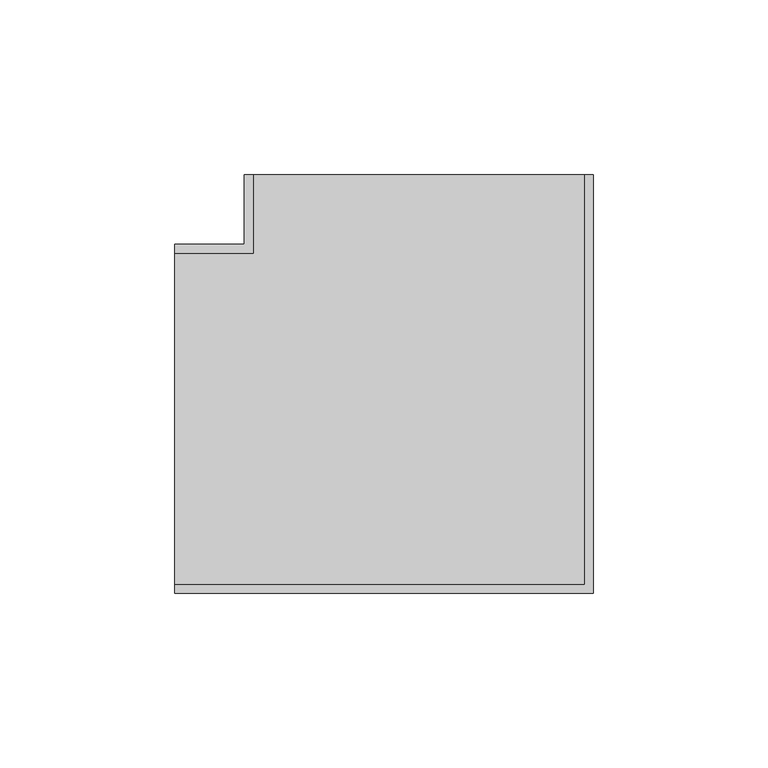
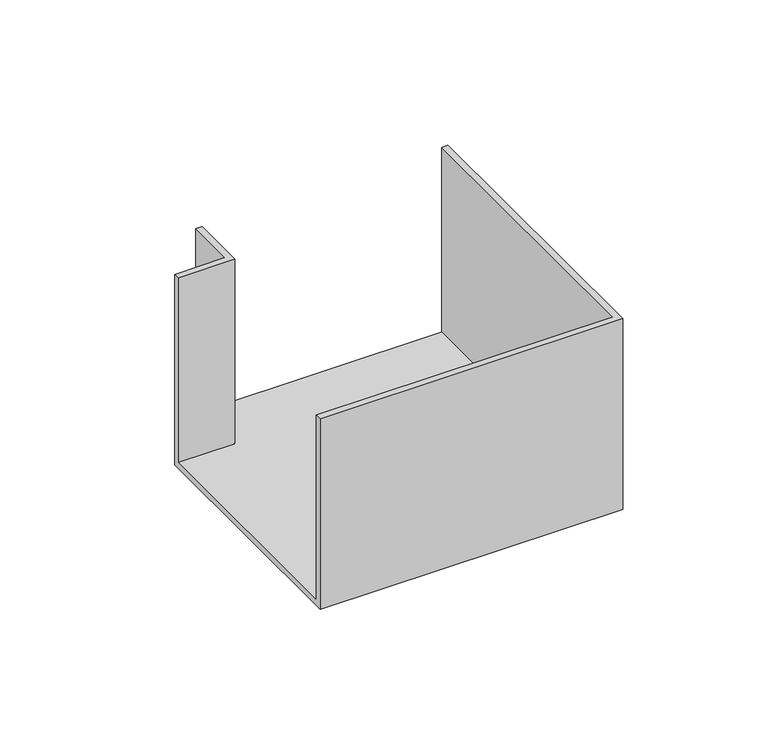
"""IFC4 building model written with IfcOpenShell, lengths in millimetres: cable carrier fitting geometry, КНС_УголПлоский NPAN_ILC_DKC : Угол плоский NPAN_DKC."""

from ifc_helpers import new_model, si_unit, origin, place, context, project, spatial, faceted_brep, source, transform, mapped, element, save


def cable_carrier_fitting_1a8395f6(model_context):
    return source(origin(), model_context, "Body", "Brep", [
        faceted_brep([(-70.0, 50.0, -40.0), (-70.0, -50.0, -40.0), (-70.0, -50.0, 40.0), (-70.0, -47.5, 40.0), (-70.0, -47.5, -37.5), (-70.0, 47.5, -37.5), (-70.0, 47.5, 40.0), (-70.0, 50.0, 40.0), (-50.0, 50.0, -40.0), (-50.0, 70.0, -40.0), (50.0, 70.0, -40.0), (50.0, -50.0, -40.0), (50.0, -50.0, 40.0), (50.0, 70.0, 40.0), (47.5, 70.0, 40.0), (47.5, -47.5, 40.0), (47.5, -47.5, -37.5), (47.5, 70.0, -37.5), (-47.5, 70.0, -37.5), (-47.5, 47.5, -37.5), (-47.5, 47.5, 40.0), (-47.5, 70.0, 40.0), (-50.0, 70.0, 40.0), (-50.0, 50.0, 40.0)], [[[0, 1, 2, 3, 4, 5, 6, 7]], [[1, 0, 8, 9, 10, 11]], [[2, 1, 11, 12]], [[3, 2, 12, 13, 14, 15]], [[4, 3, 15, 16]], [[5, 4, 16, 17, 18, 19]], [[6, 5, 19, 20]], [[7, 6, 20, 21, 22, 23]], [[0, 7, 23, 8]], [[9, 22, 21, 18, 17, 14, 13, 10]], [[12, 11, 10, 13]], [[16, 15, 14, 17]], [[20, 19, 18, 21]], [[8, 23, 22, 9]]]),
    ])


if __name__ == "__main__":
    model = new_model("IFC4")
    model_context = context("Model", 3, world=origin())
    ifc_project = project(units=[si_unit("LENGTHUNIT", "METRE", prefix="MILLI")], contexts=[model_context])
    site = spatial("IfcSite", under=ifc_project)
    building = spatial("IfcBuilding", under=site)
    placement = place(None, origin())
    cable_carrier_fitting_shape = cable_carrier_fitting_1a8395f6(model_context)
    element("IfcCableCarrierFitting", 1, ObjectType="КНС_УголПлоский NPAN_ILC_DKC : Угол плоский NPAN_DKC", at=placement, inside=building, context=model_context, shape_type="MappedRepresentation", body=[
        mapped(cable_carrier_fitting_shape, transform((0.0, 0.0, 0.0), x_axis=(1.0, 0.0, 0.0), y_axis=(0.0, 1.0, 0.0), z_axis=(0.0, 0.0, 1.0))),
    ])
    save(model, "model.ifc")
